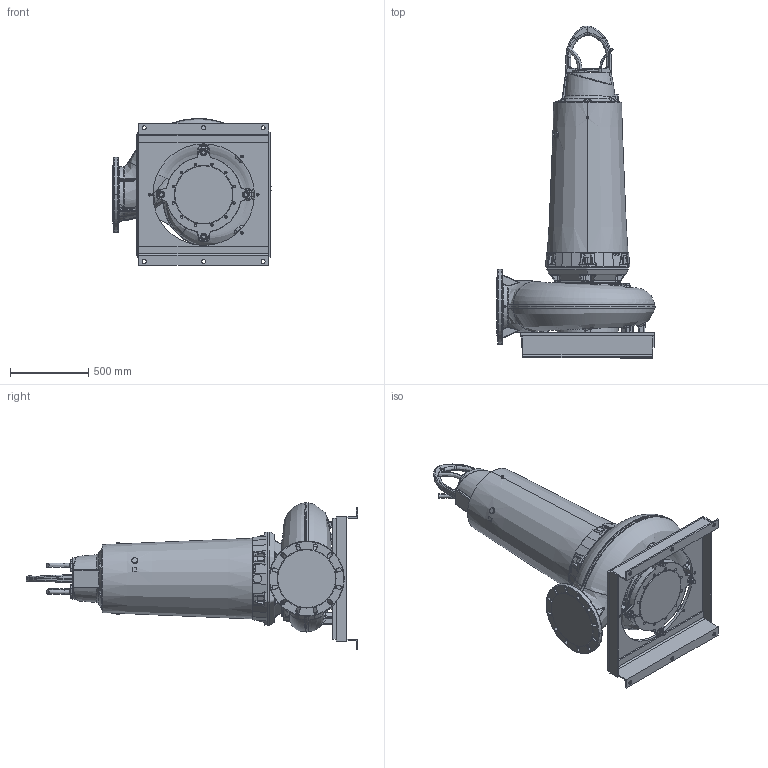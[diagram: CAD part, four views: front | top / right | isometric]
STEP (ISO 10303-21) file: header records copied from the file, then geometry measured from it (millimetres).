
FILE_DESCRIPTION (( 'STEP AP214' ), '1' );
FILE_NAME ('PE5_XFP305J-CB2_DRY_B_NG2.STEP', '2017-02-22T10:34:49', ( '' ), ( '' ), 'SwSTEP 2.0', 'SolidWorks 2017', '' );
FILE_SCHEMA (( 'AUTOMOTIVE_DESIGN' ));
Length unit declared in the file: millimetre
Products named in the file (1): PE5_XFP305J-CB2_DRY_B_NG2
Bounding box: 1010.9 x 2122.47 x 938.77 mm (x, y, z)
Volume: 402570140.4 mm3; surface area: 6421165.9 mm2
Topology: 3 solids, 17 shells, 2726 faces, 6922 edges, 4203 vertices
Faces by surface type: bspline 745, plane 723, cylinder 611, cone 388, torus 235, sphere 24
Entity records: 199480 total; most frequent: CARTESIAN_POINT 110319, ORIENTED_EDGE 13674, DIRECTION 10725, EDGE_CURVE 6837, AXIS2_PLACEMENT_3D 4317, VERTEX_POINT 4203, EDGE_LOOP 2886, UNCERTAINTY_MEASURE_WITH_UNIT 2731
